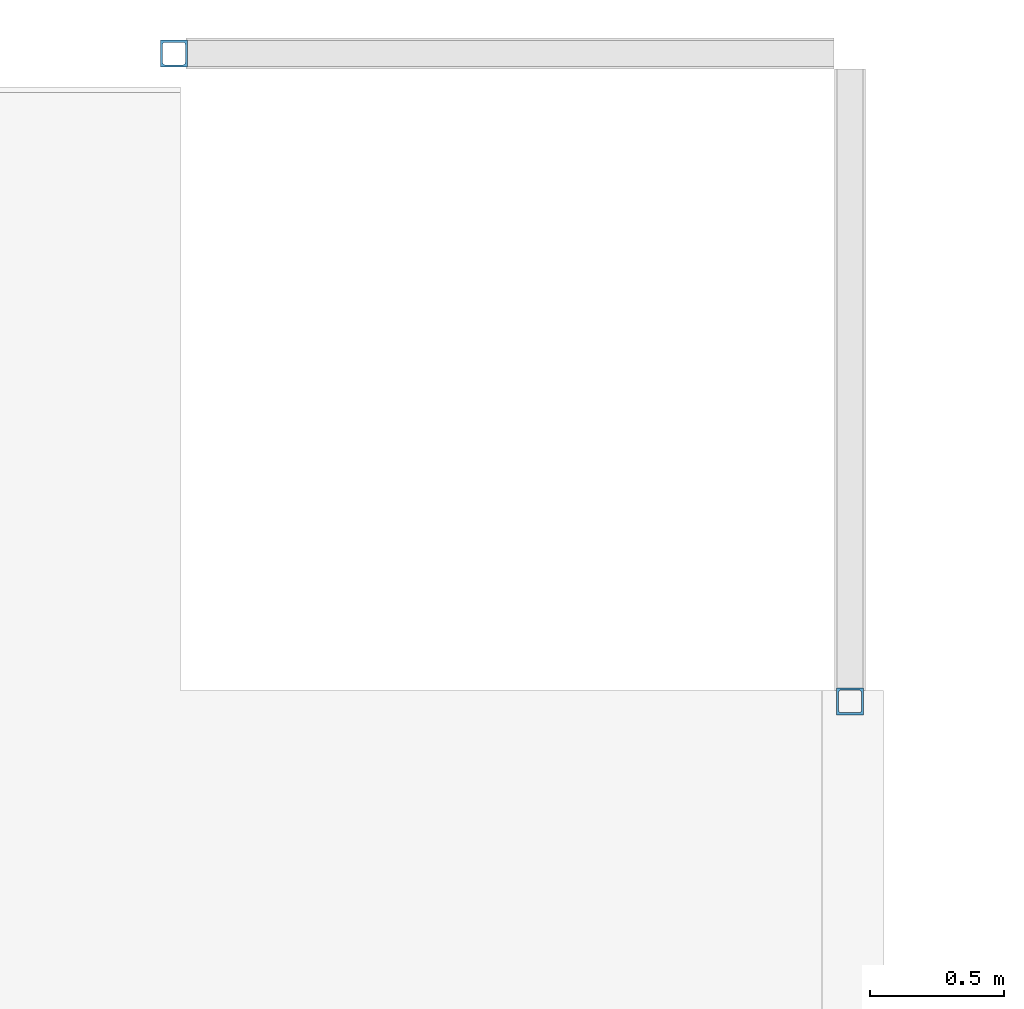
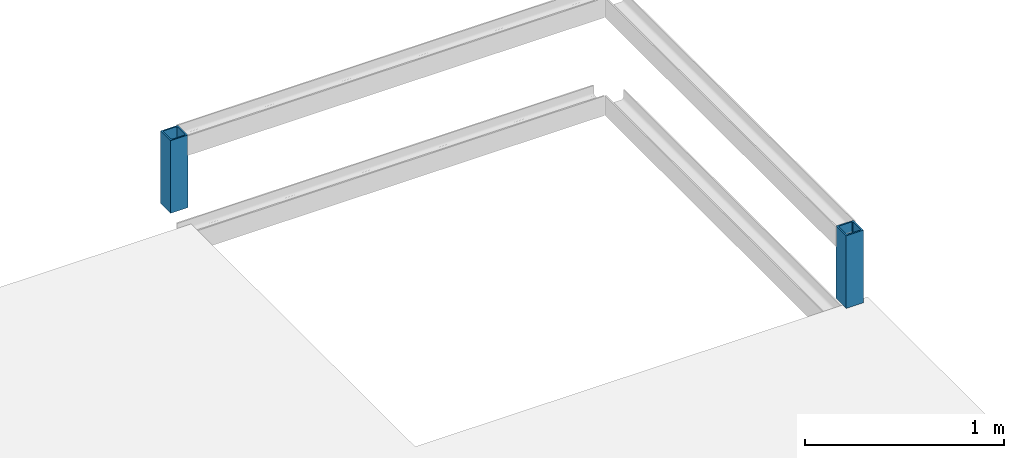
# One storey, part 10 of 36: 2 columns.
"""IFC2X3 building model written with IfcOpenShell, lengths in millimetres."""

from ifc_helpers import new_model, entity, si_unit, converted_unit, derived_unit, direction, frame, frame_2d, origin, place, context, subcontext, project, spatial, polyline, circle_curve, parameter, trimmed, segment, composite_curve, outline, extrude, source, transform, mapped, material, type_object, type_shapes, element, save


model = new_model("IFC2X3")

# Units and contexts
model_context = context("Model", 3, precision=0.01, world=origin(), true_north=direction((6.12303176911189e-17, 1.0)))
body_context = subcontext(model_context, "Body", "Model", "MODEL_VIEW")
ifc_project = project(units=[si_unit("LENGTHUNIT", "METRE", prefix="MILLI"), si_unit("AREAUNIT", "SQUARE_METRE"), si_unit("VOLUMEUNIT", "CUBIC_METRE"), converted_unit("PLANEANGLEUNIT", "DEGREE", entity("IfcRatioMeasure", 0.0174532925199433), si_unit("PLANEANGLEUNIT", "RADIAN"), dimensions=[0, 0, 0, 0, 0, 0, 0]), si_unit("MASSUNIT", "GRAM", prefix="KILO"), derived_unit("MASSDENSITYUNIT", [(si_unit("MASSUNIT", "GRAM", prefix="KILO"), 1), (si_unit("LENGTHUNIT", "METRE"), -3)]), si_unit("TIMEUNIT", "SECOND"), si_unit("FREQUENCYUNIT", "HERTZ"), si_unit("THERMODYNAMICTEMPERATUREUNIT", "DEGREE_CELSIUS"), derived_unit("THERMALTRANSMITTANCEUNIT", [(si_unit("MASSUNIT", "GRAM", prefix="KILO"), 1), (si_unit("THERMODYNAMICTEMPERATUREUNIT", "KELVIN"), -1), (si_unit("TIMEUNIT", "SECOND"), -3)]), derived_unit("VOLUMETRICFLOWRATEUNIT", [(si_unit("LENGTHUNIT", "METRE"), 3), (si_unit("TIMEUNIT", "SECOND"), -1)]), si_unit("ELECTRICCURRENTUNIT", "AMPERE"), si_unit("ELECTRICVOLTAGEUNIT", "VOLT"), si_unit("POWERUNIT", "WATT"), si_unit("FORCEUNIT", "NEWTON", prefix="KILO"), si_unit("ILLUMINANCEUNIT", "LUX"), si_unit("LUMINOUSFLUXUNIT", "LUMEN"), si_unit("LUMINOUSINTENSITYUNIT", "CANDELA"), derived_unit("USERDEFINED", [(si_unit("MASSUNIT", "GRAM", prefix="KILO"), -1), (si_unit("LENGTHUNIT", "METRE"), -2), (si_unit("TIMEUNIT", "SECOND"), 3), (si_unit("LUMINOUSFLUXUNIT", "LUMEN"), 1)]), derived_unit("LINEARVELOCITYUNIT", [(si_unit("LENGTHUNIT", "METRE"), 1), (si_unit("TIMEUNIT", "SECOND"), -1)]), si_unit("PRESSUREUNIT", "PASCAL"), derived_unit("USERDEFINED", [(si_unit("LENGTHUNIT", "METRE"), -2), (si_unit("MASSUNIT", "GRAM", prefix="KILO"), 1), (si_unit("TIMEUNIT", "SECOND"), -2)])], contexts=[model_context])

# Site, building, storey
site_placement = place(None, origin())
site = spatial("IfcSite", under=ifc_project, at=site_placement, Name="Default", CompositionType="ELEMENT")
building_placement = place(site_placement, origin())
building = spatial("IfcBuilding", under=site, at=building_placement, Name="niet gebruiken", CompositionType="ELEMENT")
storey_placement = place(building_placement, frame((0.0, 0.0, 12600.0)))
storey = spatial("IfcBuildingStorey", under=building, at=storey_placement, Name="04 vierde verdieping", CompositionType="ELEMENT", Elevation=12600.0)

# Columns
ifc_material = material(Name="NLRS_h2_staal")
column_type = type_object("IfcColumnType", Name="kolom buisprofiel warmgevormd vierkant SHSH_100x100x8", PredefinedType="COLUMN", material=ifc_material)
shared_shape = source(origin(), body_context, "Body", "SweptSolid", [
    extrude(outline(polyline([(-50.0, -50.0), (50.0, -50.0), (50.0, 50.0), (-50.0, 50.0), (-50.0, -50.0)]), holes=[composite_curve([segment(trimmed(circle_curve(frame_2d((-34.0, -34.0), x_axis=(0.0, 1.0)), 8.0), [parameter(90.0000000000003)], [parameter(180.0)], True, "PARAMETER"), False, "CONTINUOUS"), segment(polyline([(-42.0, -34.0), (-42.0, 34.0)]), True, "CONTINUOUS"), segment(trimmed(circle_curve(frame_2d((-34.0, 34.0), x_axis=(0.0, 1.0)), 8.0), [parameter(360.0)], [parameter(89.9999999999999)], True, "PARAMETER"), False, "CONTINUOUS"), segment(polyline([(-34.0, 42.0), (34.0, 42.0)]), True, "CONTINUOUS"), segment(trimmed(circle_curve(frame_2d((34.0, 34.0), x_axis=(0.0, 1.0)), 8.0), [parameter(270.0)], [parameter(360.0)], True, "PARAMETER"), False, "CONTINUOUS"), segment(polyline([(42.0, 34.0), (42.0, -34.0)]), True, "CONTINUOUS"), segment(trimmed(circle_curve(frame_2d((34.0, -34.0), x_axis=(0.0, 1.0)), 8.0), [parameter(180.0)], [parameter(270.0)], True, "PARAMETER"), False, "CONTINUOUS"), segment(polyline([(34.0, -42.0), (-34.0, -42.0)]), True, "CONTINUOUS")], self_intersect=False)]), frame((0.0, 0.0, 12555.0), z_axis=(0.0, 0.0, 1.0), x_axis=(0.0, -1.0, 0.0)), (0.0, 0.0, 1.0), 445.000000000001),
])
type_shapes(column_type, [shared_shape])
for number, where, z_axis, x_axis, name in (
    (1, (124075.0, 50716.0007019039, -12600.0), (0.0, 0.0, 1.0), (-1.0, 0.0, 0.0), "NLRS_28.11_SCO_TLB_stalen kolom buisprofiel warmgevormd vierkant_gen:kolom buisprofiel warmgevormd vierkant SHSH_100x100x8"),
    (2, (121554.949985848, 53131.0, -12600.0), (0.0, 0.0, 1.0), (-1.0, 0.0, 0.0), "NLRS_28.11_SCO_TLB_stalen kolom buisprofiel warmgevormd vierkant_gen:kolom buisprofiel warmgevormd vierkant SHSH_100x100x8"),
):
    element("IfcColumn", number, at=place(storey_placement, frame(where, z_axis=z_axis, x_axis=x_axis)), inside=storey, type_object=column_type, material=ifc_material, Name=name, ObjectType="kolom buisprofiel warmgevormd vierkant SHSH_100x100x8", context=body_context, shape_type="MappedRepresentation", body=[
        mapped(shared_shape, transform((0.0, 0.0, 0.0), scale=1.0)),
    ])

save(model, "model.ifc")
